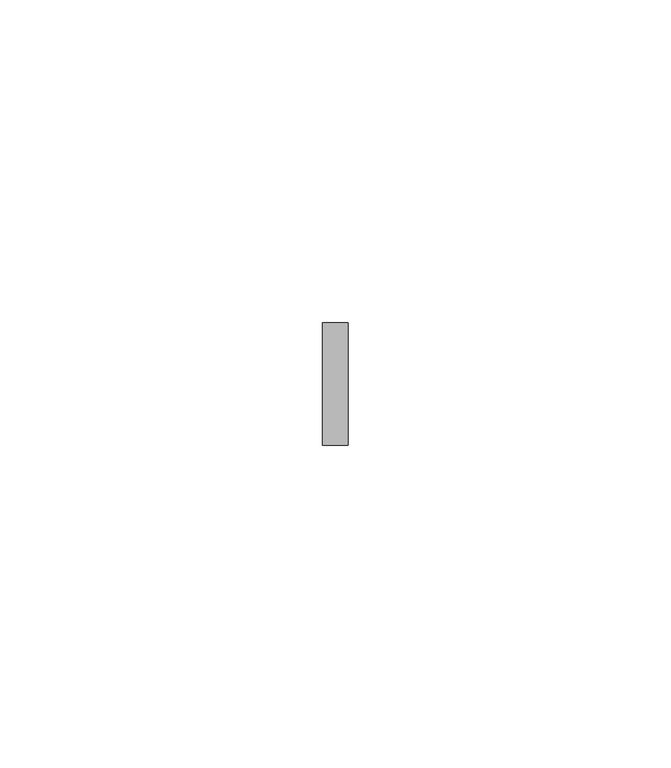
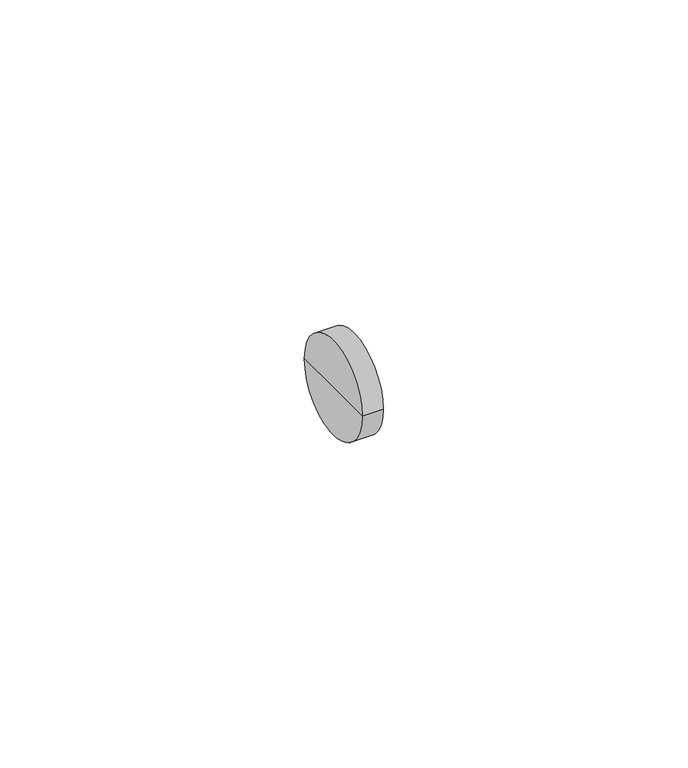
"""IFC4 building model written with IfcOpenShell, lengths in millimetres: pipe fitting geometry, KAN-therm Push łącznik mosiężny : KAN-therm Push łącznik mosiężny."""

from ifc_helpers import new_model, si_unit, frame, origin, place, context, project, spatial, circle_curve, source, transform, mapped, element, save
from ifc_brep_helpers import plane_surface, cylinder_surface, advanced_brep


def pipe_fitting_8946a435(model_context):
    return source(origin(), model_context, "Body", "AdvancedBrep", [
        advanced_brep(
        [(2.0, -9.5, 0.0), (2.0, 9.5, 0.0), (2.0, 0.0, 0.0), (-2.0, 0.0, 0.0), (-2.0, 9.5, 0.0), (-2.0, -9.5, 0.0)],
        [
            (0, 1, circle_curve(frame((2.0, 0.0, 0.0), z_axis=(1.0, 0.0, 0.0), x_axis=(0.0, 1.0, 0.0)), 9.5)),
            (1, 2),
            (2, 0),
            (1, 0, circle_curve(frame((2.0, 0.0, 0.0), z_axis=(1.0, 0.0, 0.0), x_axis=(0.0, 1.0, 0.0)), 9.5)),
            (3, 4),
            (4, 5, circle_curve(frame((-2.0, 0.0, 0.0), z_axis=(-1.0, 0.0, 0.0), x_axis=(0.0, 1.0, 0.0)), 9.5)),
            (5, 3),
            (5, 4, circle_curve(frame((-2.0, 0.0, 0.0), z_axis=(-1.0, 0.0, 0.0), x_axis=(0.0, 1.0, 0.0)), 9.5)),
            (4, 1),
            (0, 5),
        ],
        [
            plane_surface(frame((2.0, 0.0, 0.0), z_axis=(1.0, 0.0, 0.0), x_axis=(0.0, 1.0, 0.0))),
            plane_surface(frame((-2.0, 0.0, 0.0), z_axis=(-1.0, 0.0, 0.0), x_axis=(0.0, 1.0, 0.0))),
            cylinder_surface(frame((1996.0, 0.0, 0.0), z_axis=(-1.0, 0.0, 0.0), x_axis=(0.0, 1.0, 0.0)), 9.5),
        ],
        [
            (0, [[1, 2, 3]]),
            (0, [[4, -3, -2]]),
            (1, [[5, 6, 7]]),
            (1, [[-7, 8, -5]]),
            (2, [[-6, 9, -1, 10]]),
            (2, [[-8, -10, -4, -9]]),
        ],
    ),
    ])


if __name__ == "__main__":
    model = new_model("IFC4")
    model_context = context("Model", 3, world=origin())
    ifc_project = project(units=[si_unit("LENGTHUNIT", "METRE", prefix="MILLI")], contexts=[model_context])
    site = spatial("IfcSite", under=ifc_project)
    building = spatial("IfcBuilding", under=site)
    placement = place(None, origin())
    pipe_fitting_shape = pipe_fitting_8946a435(model_context)
    element("IfcPipeFitting", 1, ObjectType="KAN-therm Push łącznik mosiężny : KAN-therm Push łącznik mosiężny", at=placement, inside=building, context=model_context, shape_type="MappedRepresentation", body=[
        mapped(pipe_fitting_shape, transform((0.0, 0.0, 0.0), x_axis=(1.0, 0.0, 0.0), y_axis=(0.0, 1.0, 0.0), z_axis=(0.0, 0.0, 1.0))),
    ])
    save(model, "model.ifc")
